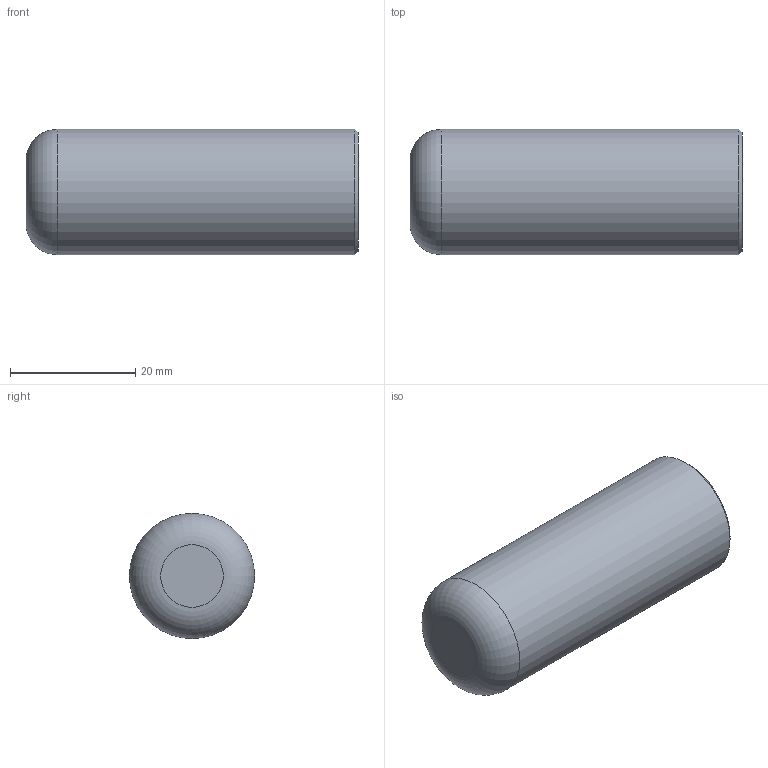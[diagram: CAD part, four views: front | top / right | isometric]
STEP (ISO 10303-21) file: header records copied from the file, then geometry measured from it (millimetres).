
FILE_DESCRIPTION(/* description */ ('Unknown'),/* implementation_level */ '2;1');
FILE_NAME(/* name */ 'CAP020C',/* time_stamp */ '2021-02-04T08:49:11+01:00',/* author */ ('Unknown'),/* organization */ ('Unknown'),/* preprocessor_version */ 'ST-DEVELOPER v16.7',/* originating_system */ 'Solid Edge',/* authorisation */ 'Unknown');
FILE_SCHEMA (('AUTOMOTIVE_DESIGN {1 0 10303 214 3 1 1}'));
Length unit declared in the file: millimetre
Products named in the file (1): CAP020C
Bounding box: 53 x 20 x 20 mm (x, y, z)
Volume: 8681.7 mm3; surface area: 5953.3 mm2
Topology: 1 solids, 1 shells, 8 faces, 13 edges, 8 vertices
Faces by surface type: plane 3, torus 2, cylinder 2, cone 1
Full cylindrical faces by diameter (mm): 14 x1, 20 x1
Entity records: 184 total; most frequent: DIRECTION 32, CARTESIAN_POINT 23, AXIS2_PLACEMENT_3D 16, ORIENTED_EDGE 14, EDGE_LOOP 14, FACE_BOUND 14, ADVANCED_FACE 8, EDGE_CURVE 7
